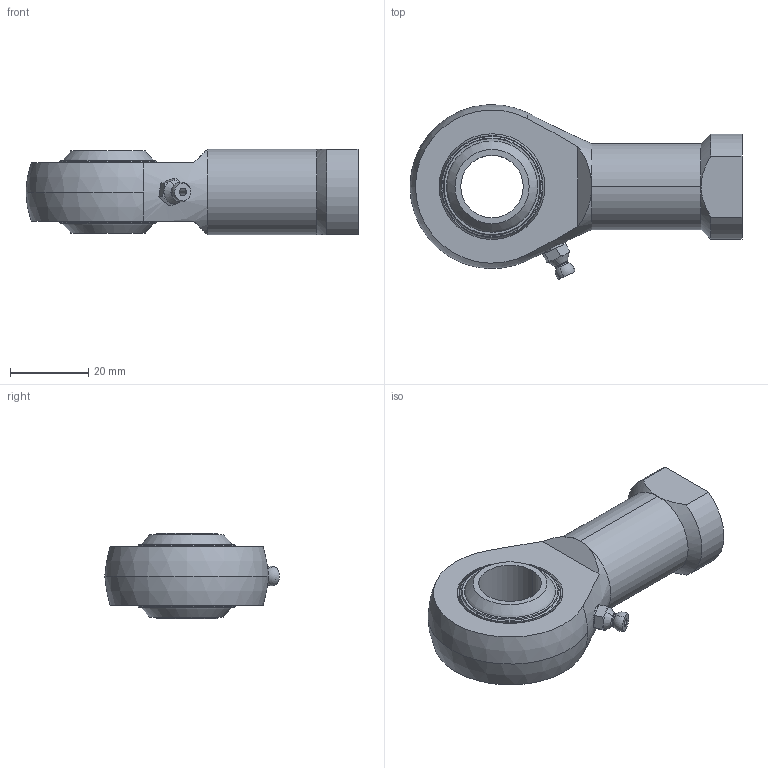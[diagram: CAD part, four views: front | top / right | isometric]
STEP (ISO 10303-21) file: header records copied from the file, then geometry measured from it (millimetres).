
FILE_DESCRIPTION (( 'STEP AP203' ), '1' );
FILE_NAME ('65760.W0216.step', '2014-02-11T16:39:37', ( 'User' ), ( '' ), 'SwSTEP 2.0', 'SolidWorks 2009', '' );
FILE_SCHEMA (( 'CONFIG_CONTROL_DESIGN' ));
Length unit declared in the file: millimetre
Products named in the file (5): Part1_65760.W0216; 65760.W0216; Part2_65760.W0216; Part3_M5; Part4_65760.W0216
Assembly tree (5 placements, depth 2):
  65760.W0216
    Part4_65760.W0216  x2
    Part1_65760.W0216
    Part3_M5
    Part2_65760.W0216
Bounding box: 85 x 44.68 x 22 mm (x, y, z)
Volume: 28905.2 mm3; surface area: 16365.2 mm2
Topology: 46 solids, 46 shells, 183 faces, 520 edges, 349 vertices
Faces by surface type: sphere 98, plane 27, torus 22, cylinder 20, cone 16
Entity records: 4791 total; most frequent: CARTESIAN_POINT 915, DIRECTION 808, ORIENTED_EDGE 550, AXIS2_PLACEMENT_3D 383, EDGE_CURVE 275, CIRCLE 205, VERTEX_POINT 204, EDGE_LOOP 189
